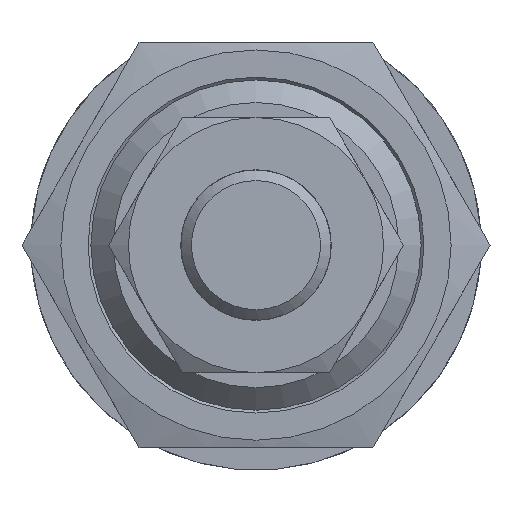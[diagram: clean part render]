
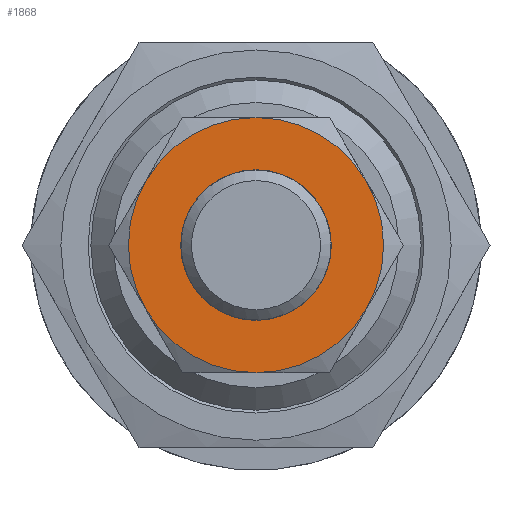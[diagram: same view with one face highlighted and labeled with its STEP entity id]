
A CAD part, front view. The second image highlights one B-rep face of the part: STEP entity #1868.
In plain terms, the highlighted planar face has unit normal (0, -1, 0) as drawn and (1, 0, 0) by its records, which use the part's own axes.
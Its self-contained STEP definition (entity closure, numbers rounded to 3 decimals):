
#322=PLANE('',#3062);
#722=ORIENTED_EDGE('',*,*,#982,.T.);
#723=ORIENTED_EDGE('',*,*,#980,.T.);
#724=ORIENTED_EDGE('',*,*,#977,.T.);
#725=ORIENTED_EDGE('',*,*,#976,.T.);
#726=ORIENTED_EDGE('',*,*,#978,.T.);
#727=ORIENTED_EDGE('',*,*,#979,.T.);
#728=ORIENTED_EDGE('',*,*,#981,.T.);
#976=EDGE_CURVE('',#1149,#1156,#1279,.T.);
#977=EDGE_CURVE('',#1146,#1149,#1280,.T.);
#978=EDGE_CURVE('',#1156,#1154,#1281,.T.);
#979=EDGE_CURVE('',#1154,#1151,#1282,.T.);
#980=EDGE_CURVE('',#1141,#1146,#1283,.T.);
#981=EDGE_CURVE('',#1151,#1141,#1284,.T.);
#982=EDGE_CURVE('',#1157,#1157,#1285,.F.);
#1141=VERTEX_POINT('',#4110);
#1146=VERTEX_POINT('',#4130);
#1149=VERTEX_POINT('',#4147);
#1151=VERTEX_POINT('',#4165);
#1154=VERTEX_POINT('',#4182);
#1156=VERTEX_POINT('',#4198);
#1157=VERTEX_POINT('',#4222);
#1279=CIRCLE('',#3045,8.5);
#1280=CIRCLE('',#3047,8.5);
#1281=CIRCLE('',#3049,8.5);
#1282=CIRCLE('',#3051,8.5);
#1283=CIRCLE('',#3053,8.5);
#1284=CIRCLE('',#3055,8.5);
#1285=CIRCLE('',#3063,5.016);
#1476=EDGE_LOOP('',(#722));
#1477=EDGE_LOOP('',(#723,#724,#725,#726,#727,#728));
#1687=FACE_BOUND('',#1476,.T.);
#1688=FACE_BOUND('',#1477,.T.);
#1868=ADVANCED_FACE('',(#1687,#1688),#322,.T.);
#3045=AXIS2_PLACEMENT_3D('',#4203,#3576,#3577);
#3047=AXIS2_PLACEMENT_3D('',#4205,#3580,#3581);
#3049=AXIS2_PLACEMENT_3D('',#4207,#3584,#3585);
#3051=AXIS2_PLACEMENT_3D('',#4209,#3588,#3589);
#3053=AXIS2_PLACEMENT_3D('',#4211,#3592,#3593);
#3055=AXIS2_PLACEMENT_3D('',#4213,#3596,#3597);
#3062=AXIS2_PLACEMENT_3D('',#4220,#3610,#3611);
#3063=AXIS2_PLACEMENT_3D('',#4221,#3612,#3613);
#3576=DIRECTION('',(1.,0.,0.));
#3577=DIRECTION('',(0.,1.,0.));
#3580=DIRECTION('',(1.,0.,0.));
#3581=DIRECTION('',(0.,1.,0.));
#3584=DIRECTION('',(1.,0.,0.));
#3585=DIRECTION('',(0.,1.,0.));
#3588=DIRECTION('',(1.,0.,0.));
#3589=DIRECTION('',(0.,1.,0.));
#3592=DIRECTION('',(1.,0.,0.));
#3593=DIRECTION('',(0.,1.,0.));
#3596=DIRECTION('',(1.,0.,0.));
#3597=DIRECTION('',(0.,1.,0.));
#3610=DIRECTION('',(1.,0.,0.));
#3611=DIRECTION('',(0.,0.,-1.));
#3612=DIRECTION('',(1.,0.,0.));
#3613=DIRECTION('',(0.,0.,-1.));
#4110=CARTESIAN_POINT('',(6.,-7.361,-4.25));
#4130=CARTESIAN_POINT('',(6.,0.,-8.5));
#4147=CARTESIAN_POINT('',(6.,7.361,-4.25));
#4165=CARTESIAN_POINT('',(6.,-7.361,4.25));
#4182=CARTESIAN_POINT('',(6.,0.,8.5));
#4198=CARTESIAN_POINT('',(6.,7.361,4.25));
#4203=CARTESIAN_POINT('',(6.,0.,0.));
#4205=CARTESIAN_POINT('',(6.,0.,0.));
#4207=CARTESIAN_POINT('',(6.,0.,0.));
#4209=CARTESIAN_POINT('',(6.,0.,0.));
#4211=CARTESIAN_POINT('',(6.,0.,0.));
#4213=CARTESIAN_POINT('',(6.,0.,0.));
#4220=CARTESIAN_POINT('',(6.,0.,0.));
#4221=CARTESIAN_POINT('',(6.,0.,0.));
#4222=CARTESIAN_POINT('',(6.,0.,-5.016));
